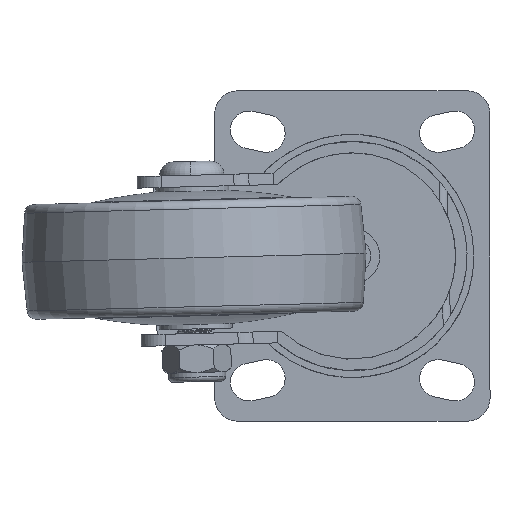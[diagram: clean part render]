
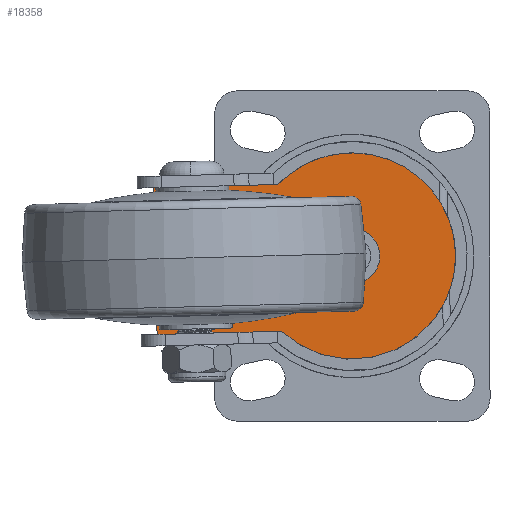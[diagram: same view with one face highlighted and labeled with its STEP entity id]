
A CAD part, front view. The second image highlights one B-rep face of the part: STEP entity #18358.
In plain terms, the highlighted planar face has unit normal (0, -1, 0) as drawn and (0, 1, 0) by its records, which use the part's own axes.
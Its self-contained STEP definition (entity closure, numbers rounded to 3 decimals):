
#119 = CARTESIAN_POINT ( 'NONE',  ( 0., 2.5, -6. ) ) ;
#179 = CARTESIAN_POINT ( 'NONE',  ( 16., 2.5, 15.819 ) ) ;
#200 = VERTEX_POINT ( 'NONE', #4001 ) ;
#858 = CARTESIAN_POINT ( 'NONE',  ( 0., 2.5, 0. ) ) ;
#1382 = CIRCLE ( 'NONE', #11898, 6. ) ;
#1739 = EDGE_LOOP ( 'NONE', ( #6899, #10982 ) ) ;
#2336 = EDGE_CURVE ( 'NONE', #14708, #200, #18033, .T. ) ;
#2558 = AXIS2_PLACEMENT_3D ( 'NONE', #3390, #7387, #19578 ) ;
#2752 = VERTEX_POINT ( 'NONE', #179 ) ;
#3226 = VECTOR ( 'NONE', #6526, 1000. ) ;
#3331 = CARTESIAN_POINT ( 'NONE',  ( 0., 2.5, -22.5 ) ) ;
#3390 = CARTESIAN_POINT ( 'NONE',  ( 0., 2.5, 0. ) ) ;
#3605 = DIRECTION ( 'NONE',  ( 0., 0., -1. ) ) ;
#4001 = CARTESIAN_POINT ( 'NONE',  ( -16., 2.5, 15.819 ) ) ;
#4251 = DIRECTION ( 'NONE',  ( 0., 0., 1. ) ) ;
#4549 = EDGE_CURVE ( 'NONE', #14708, #14082, #15584, .T. ) ;
#5047 = DIRECTION ( 'NONE',  ( 0., 0., 1. ) ) ;
#5253 = VECTOR ( 'NONE', #20779, 1000. ) ;
#5264 = FACE_BOUND ( 'NONE', #1739, .T. ) ;
#5671 = VERTEX_POINT ( 'NONE', #18467 ) ;
#6168 = LINE ( 'NONE', #18940, #3226 ) ;
#6526 = DIRECTION ( 'NONE',  ( 0., 0., -1. ) ) ;
#6702 = VERTEX_POINT ( 'NONE', #3331 ) ;
#6899 = ORIENTED_EDGE ( 'NONE', *, *, #14972, .T. ) ;
#7037 = FACE_OUTER_BOUND ( 'NONE', #11063, .T. ) ;
#7255 = ORIENTED_EDGE ( 'NONE', *, *, #7810, .T. ) ;
#7295 = EDGE_CURVE ( 'NONE', #12157, #5671, #19495, .T. ) ;
#7311 = CARTESIAN_POINT ( 'NONE',  ( -16., 2.5, 42.976 ) ) ;
#7387 = DIRECTION ( 'NONE',  ( 0., 1., 0. ) ) ;
#7810 = EDGE_CURVE ( 'NONE', #6702, #200, #12335, .T. ) ;
#7969 = CARTESIAN_POINT ( 'NONE',  ( 0., 2.5, 0. ) ) ;
#10139 = DIRECTION ( 'NONE',  ( 0., 1., 0. ) ) ;
#10562 = CARTESIAN_POINT ( 'NONE',  ( -16., 2.5, 0. ) ) ;
#10982 = ORIENTED_EDGE ( 'NONE', *, *, #7295, .T. ) ;
#11063 = EDGE_LOOP ( 'NONE', ( #15345, #11168, #21156, #7255, #19849 ) ) ;
#11168 = ORIENTED_EDGE ( 'NONE', *, *, #14612, .T. ) ;
#11898 = AXIS2_PLACEMENT_3D ( 'NONE', #12128, #15823, #22903 ) ;
#12128 = CARTESIAN_POINT ( 'NONE',  ( 0., 2.5, 0. ) ) ;
#12157 = VERTEX_POINT ( 'NONE', #119 ) ;
#12317 = AXIS2_PLACEMENT_3D ( 'NONE', #858, #13586, #4251 ) ;
#12335 = CIRCLE ( 'NONE', #20271, 22.5 ) ;
#13020 = AXIS2_PLACEMENT_3D ( 'NONE', #7969, #20521, #15206 ) ;
#13564 = CARTESIAN_POINT ( 'NONE',  ( 0., 2.5, 42.976 ) ) ;
#13586 = DIRECTION ( 'NONE',  ( 0., -1., 0. ) ) ;
#13770 = VECTOR ( 'NONE', #3605, 1000. ) ;
#14082 = VERTEX_POINT ( 'NONE', #19844 ) ;
#14364 = EDGE_CURVE ( 'NONE', #2752, #6702, #21716, .T. ) ;
#14612 = EDGE_CURVE ( 'NONE', #14082, #2752, #6168, .T. ) ;
#14708 = VERTEX_POINT ( 'NONE', #7311 ) ;
#14721 = PLANE ( 'NONE',  #2558 ) ;
#14972 = EDGE_CURVE ( 'NONE', #5671, #12157, #1382, .T. ) ;
#15206 = DIRECTION ( 'NONE',  ( 0., 0., 1. ) ) ;
#15345 = ORIENTED_EDGE ( 'NONE', *, *, #4549, .T. ) ;
#15584 = LINE ( 'NONE', #13564, #5253 ) ;
#15823 = DIRECTION ( 'NONE',  ( 0., -1., 0. ) ) ;
#18033 = LINE ( 'NONE', #10562, #13770 ) ;
#18358 = ADVANCED_FACE ( 'NONE', ( #5264, #7037 ), #14721, .T. ) ;
#18467 = CARTESIAN_POINT ( 'NONE',  ( 0., 2.5, 6. ) ) ;
#18940 = CARTESIAN_POINT ( 'NONE',  ( 16., 2.5, 55. ) ) ;
#19495 = CIRCLE ( 'NONE', #12317, 6. ) ;
#19578 = DIRECTION ( 'NONE',  ( 0., 0., 1. ) ) ;
#19844 = CARTESIAN_POINT ( 'NONE',  ( 16., 2.5, 42.976 ) ) ;
#19849 = ORIENTED_EDGE ( 'NONE', *, *, #2336, .F. ) ;
#20271 = AXIS2_PLACEMENT_3D ( 'NONE', #23257, #10139, #5047 ) ;
#20521 = DIRECTION ( 'NONE',  ( 0., 1., 0. ) ) ;
#20779 = DIRECTION ( 'NONE',  ( 1., 0., 0. ) ) ;
#21156 = ORIENTED_EDGE ( 'NONE', *, *, #14364, .T. ) ;
#21716 = CIRCLE ( 'NONE', #13020, 22.5 ) ;
#22903 = DIRECTION ( 'NONE',  ( 0., 0., 1. ) ) ;
#23257 = CARTESIAN_POINT ( 'NONE',  ( 0., 2.5, 0. ) ) ;
